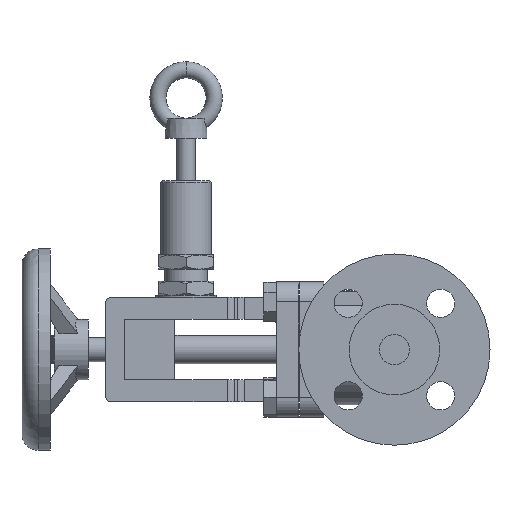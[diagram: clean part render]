
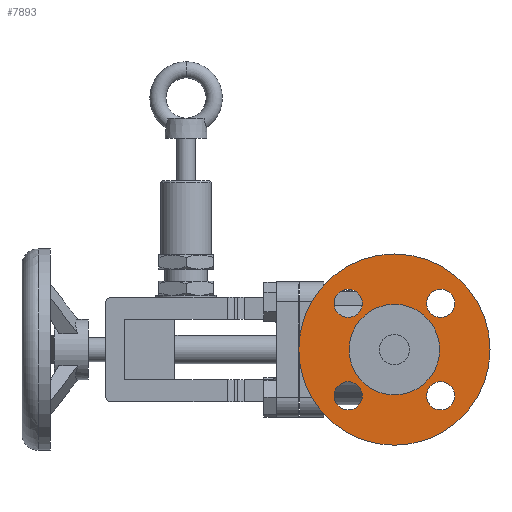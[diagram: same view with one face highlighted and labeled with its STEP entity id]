
A CAD part, left-side view. The second image highlights one B-rep face of the part: STEP entity #7893.
In plain terms, the highlighted planar face has unit normal (-1, 0, 0).
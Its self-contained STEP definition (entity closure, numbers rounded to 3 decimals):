
#338=FACE_BOUND('',#1526,.T.);
#339=FACE_BOUND('',#1527,.T.);
#340=FACE_BOUND('',#1528,.T.);
#341=FACE_BOUND('',#1529,.T.);
#342=FACE_BOUND('',#1530,.T.);
#599=PLANE('',#8459);
#1075=FACE_OUTER_BOUND('',#1525,.T.);
#1525=EDGE_LOOP('',(#6991));
#1526=EDGE_LOOP('',(#6992));
#1527=EDGE_LOOP('',(#6993));
#1528=EDGE_LOOP('',(#6994));
#1529=EDGE_LOOP('',(#6995));
#1530=EDGE_LOOP('',(#6996));
#3088=CIRCLE('',#8386,47.5);
#3091=CIRCLE('',#8390,7.);
#3093=CIRCLE('',#8393,7.);
#3095=CIRCLE('',#8396,7.);
#3097=CIRCLE('',#8399,7.);
#3098=CIRCLE('',#8401,22.5);
#3766=VERTEX_POINT('',#13482);
#3769=VERTEX_POINT('',#13490);
#3771=VERTEX_POINT('',#13496);
#3773=VERTEX_POINT('',#13502);
#3775=VERTEX_POINT('',#13508);
#3776=VERTEX_POINT('',#13512);
#4797=EDGE_CURVE('',#3766,#3766,#3088,.T.);
#4802=EDGE_CURVE('',#3769,#3769,#3091,.T.);
#4805=EDGE_CURVE('',#3771,#3771,#3093,.T.);
#4808=EDGE_CURVE('',#3773,#3773,#3095,.T.);
#4811=EDGE_CURVE('',#3775,#3775,#3097,.T.);
#4812=EDGE_CURVE('',#3776,#3776,#3098,.T.);
#6991=ORIENTED_EDGE('',*,*,#4797,.F.);
#6992=ORIENTED_EDGE('',*,*,#4805,.F.);
#6993=ORIENTED_EDGE('',*,*,#4808,.F.);
#6994=ORIENTED_EDGE('',*,*,#4811,.F.);
#6995=ORIENTED_EDGE('',*,*,#4802,.F.);
#6996=ORIENTED_EDGE('',*,*,#4812,.F.);
#7893=ADVANCED_FACE('',(#1075,#338,#339,#340,#341,#342),#599,.F.);
#8386=AXIS2_PLACEMENT_3D('',#13483,#10009,#10010);
#8390=AXIS2_PLACEMENT_3D('',#13492,#10019,#10020);
#8393=AXIS2_PLACEMENT_3D('',#13498,#10026,#10027);
#8396=AXIS2_PLACEMENT_3D('',#13504,#10033,#10034);
#8399=AXIS2_PLACEMENT_3D('',#13510,#10040,#10041);
#8401=AXIS2_PLACEMENT_3D('',#13513,#10044,#10045);
#8459=AXIS2_PLACEMENT_3D('',#13676,#10224,#10225);
#10009=DIRECTION('center_axis',(1.,0.,0.));
#10010=DIRECTION('ref_axis',(0.,0.,-1.));
#10019=DIRECTION('center_axis',(-1.,0.,0.));
#10020=DIRECTION('ref_axis',(0.,0.,-1.));
#10026=DIRECTION('center_axis',(-1.,0.,0.));
#10027=DIRECTION('ref_axis',(0.,0.,-1.));
#10033=DIRECTION('center_axis',(-1.,0.,0.));
#10034=DIRECTION('ref_axis',(0.,0.,-1.));
#10040=DIRECTION('center_axis',(-1.,0.,0.));
#10041=DIRECTION('ref_axis',(0.,0.,-1.));
#10044=DIRECTION('center_axis',(-1.,0.,0.));
#10045=DIRECTION('ref_axis',(0.,1.,0.));
#10224=DIRECTION('center_axis',(1.,0.,0.));
#10225=DIRECTION('ref_axis',(0.,0.,-1.));
#13482=CARTESIAN_POINT('',(-57.091,-66.944,1.));
#13483=CARTESIAN_POINT('Origin',(-57.091,-66.944,-46.5));
#13490=CARTESIAN_POINT('',(-57.091,-43.963,-62.481));
#13492=CARTESIAN_POINT('Origin',(-57.091,-43.963,-69.481));
#13496=CARTESIAN_POINT('',(-57.091,-89.925,-62.481));
#13498=CARTESIAN_POINT('Origin',(-57.091,-89.925,-69.481));
#13502=CARTESIAN_POINT('',(-57.091,-43.963,-16.519));
#13504=CARTESIAN_POINT('Origin',(-57.091,-43.963,-23.519));
#13508=CARTESIAN_POINT('',(-57.091,-89.925,-16.519));
#13510=CARTESIAN_POINT('Origin',(-57.091,-89.925,-23.519));
#13512=CARTESIAN_POINT('',(-57.091,-89.444,-46.5));
#13513=CARTESIAN_POINT('Origin',(-57.091,-66.944,-46.5));
#13676=CARTESIAN_POINT('Origin',(-57.091,-31.944,-46.5));
